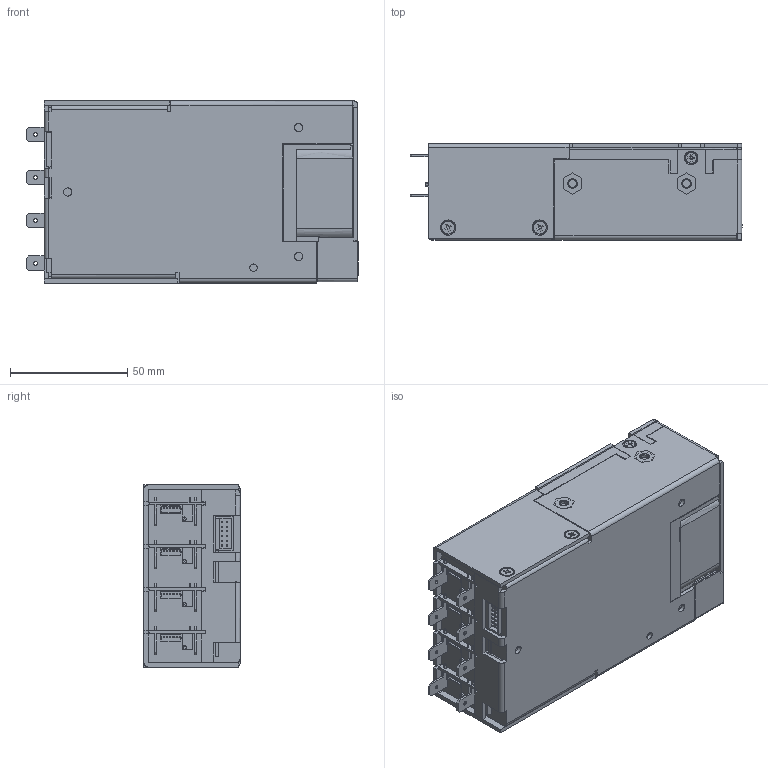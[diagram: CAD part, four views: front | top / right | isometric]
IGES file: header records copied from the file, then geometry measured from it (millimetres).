
Start section: SolidWorks IGES file using analytic representation for surfaces
Global section: file name: C:\Users\Robin\Vox Power Ltd\Engineering - NEVO 600 Documents\NEVO+600_ASSY\ASY6058\Public Facing\Releases\DOC-DWG-004 NEVO600 3D Public Facing Drawing 26-11-2020.IGS; native system: SolidWorks 2020; preprocessor: SolidWorks 2020; author: Robin; date: 201126.113916; units: millimetre
Bounding box: 141.65 x 41.01 x 77.7 mm (x, y, z)
Surface area: 63558.8 mm2 (no closed solid volume)
Topology: 0 solids, 0 shells, 1515 faces, 11078 edges, 11074 vertices
Faces by surface type: bspline 1126, revolution 389
